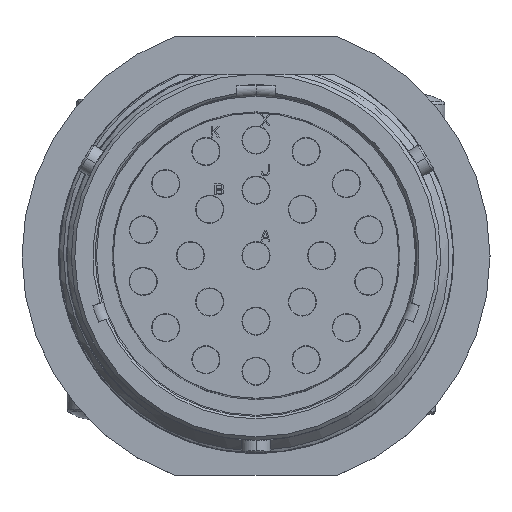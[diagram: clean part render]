
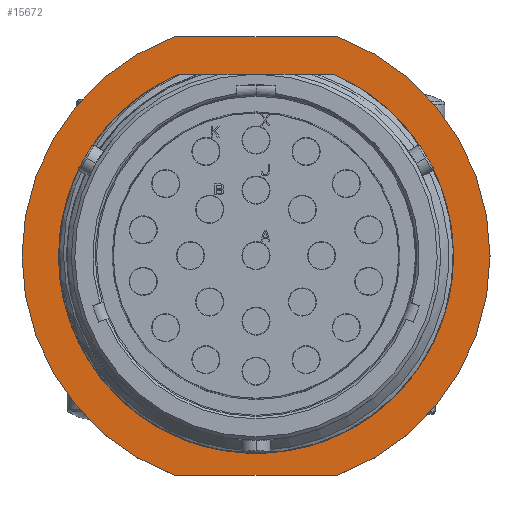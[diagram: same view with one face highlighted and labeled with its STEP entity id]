
A CAD part, top view. The second image highlights one B-rep face of the part: STEP entity #15672.
In plain terms, the highlighted planar face has unit normal (0, 0, 1).
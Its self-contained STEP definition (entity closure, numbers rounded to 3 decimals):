
#2344=CARTESIAN_POINT('',(0.,0.,-26.162));
#2345=DIRECTION('',(0.,0.,-1.));
#2346=DIRECTION('',(0.397,0.918,0.));
#2347=AXIS2_PLACEMENT_3D('',#2344,#2345,#2346);
#2353=DIRECTION('',(-1.,0.,0.));
#2354=VECTOR('',#2353,17.678);
#2355=CARTESIAN_POINT('',(8.839,-23.813,-26.162));
#2356=LINE('',#2355,#2354);
#2357=CARTESIAN_POINT('',(0.,0.,-26.162));
#2358=DIRECTION('',(0.,0.,1.));
#2359=DIRECTION('',(-0.348,0.938,0.));
#2360=AXIS2_PLACEMENT_3D('',#2357,#2358,#2359);
#2362=DIRECTION('',(1.,0.,0.));
#2363=VECTOR('',#2362,17.678);
#2364=CARTESIAN_POINT('',(-8.839,23.813,-26.162));
#2365=LINE('',#2364,#2363);
#2366=CARTESIAN_POINT('',(0.,0.,-26.162));
#2367=DIRECTION('',(0.,0.,-1.));
#2368=DIRECTION('',(0.348,0.938,0.));
#2369=AXIS2_PLACEMENT_3D('',#2366,#2367,#2368);
#2371=DIRECTION('',(1.,0.,0.));
#2372=VECTOR('',#2371,17.035);
#2373=CARTESIAN_POINT('',(-8.518,19.666,-26.162));
#2374=LINE('',#2373,#2372);
#8527=CARTESIAN_POINT('',(-8.839,-23.813,-26.162));
#8528=VERTEX_POINT('',#8527);
#8529=CARTESIAN_POINT('',(-8.839,23.813,-26.162));
#8530=VERTEX_POINT('',#8529);
#8531=CARTESIAN_POINT('',(8.839,-23.813,-26.162));
#8532=VERTEX_POINT('',#8531);
#8533=CARTESIAN_POINT('',(8.839,23.813,-26.162));
#8534=VERTEX_POINT('',#8533);
#9558=CARTESIAN_POINT('',(-8.518,19.666,-26.162));
#9560=VERTEX_POINT('',#9558);
#9604=CARTESIAN_POINT('',(8.518,19.666,-26.162));
#9605=VERTEX_POINT('',#9604);
#15653=CARTESIAN_POINT('',(0.,0.,-26.162));
#15654=DIRECTION('',(0.,0.,1.));
#15655=DIRECTION('',(0.,1.,0.));
#15656=AXIS2_PLACEMENT_3D('',#15653,#15654,#15655);
#15657=PLANE('',#15656);
#15659=ORIENTED_EDGE('',*,*,#15658,.T.);
#15661=ORIENTED_EDGE('',*,*,#15660,.F.);
#15663=ORIENTED_EDGE('',*,*,#15662,.T.);
#15665=ORIENTED_EDGE('',*,*,#15664,.T.);
#15666=EDGE_LOOP('',(#15659,#15661,#15663,#15665));
#15667=FACE_OUTER_BOUND('',#15666,.F.);
#15668=ORIENTED_EDGE('',*,*,#15647,.F.);
#15669=ORIENTED_EDGE('',*,*,#10721,.F.);
#15670=EDGE_LOOP('',(#15668,#15669));
#15671=FACE_BOUND('',#15670,.F.);
#15672=ADVANCED_FACE('',(#15667,#15671),#15657,.T.);
#2348=CIRCLE('',#2347,21.431);
#2361=CIRCLE('',#2360,25.4);
#2370=CIRCLE('',#2369,25.4);
#10721=EDGE_CURVE('',#9560,#9605,#2374,.T.);
#15647=EDGE_CURVE('',#9605,#9560,#2348,.T.);
#15658=EDGE_CURVE('',#8532,#8528,#2356,.T.);
#15660=EDGE_CURVE('',#8530,#8528,#2361,.T.);
#15662=EDGE_CURVE('',#8530,#8534,#2365,.T.);
#15664=EDGE_CURVE('',#8534,#8532,#2370,.T.);
